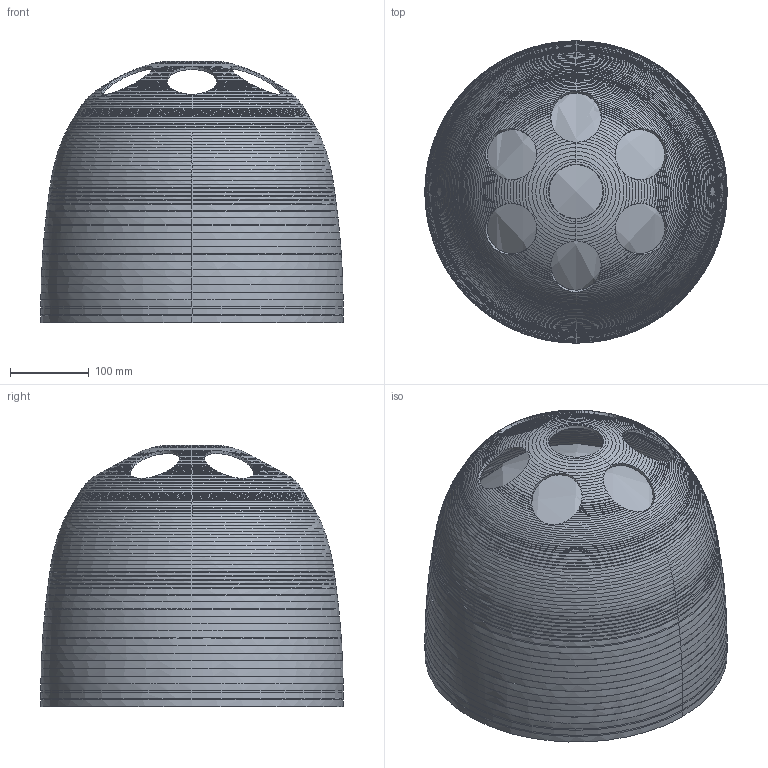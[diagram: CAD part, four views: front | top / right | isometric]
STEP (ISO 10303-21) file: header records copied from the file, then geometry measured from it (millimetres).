
FILE_DESCRIPTION(/* description */ (''),/* implementation_level */ '2;1');
FILE_NAME(/* name */ 'Dedalo',/* time_stamp */ '2025-07-07T17:56:37+02:00',/* author */ (''),/* organization */ (''),/* preprocessor_version */ 'ST-DEVELOPER v16.5',/* originating_system */ 'Rhino 7.37',/* authorisation */ '');
FILE_SCHEMA (('AUTOMOTIVE_DESIGN'));
Length unit declared in the file: millimetre
Products named in the file (1): Blocco 01
Bounding box: 383.71 x 383.71 x 332.23 mm (x, y, z)
Surface area: 1339984.4 mm2 (no closed solid volume)
Topology: 0 solids, 4 shells, 1125 faces, 2635 edges, 1458 vertices
Faces by surface type: bspline 1109, cylinder 12, plane 4
Entity records: 52405 total; most frequent: CARTESIAN_POINT 37978, ORIENTED_EDGE 5013, EDGE_CURVE 2517, B_SPLINE_CURVE_WITH_KNOTS 1642, VERTEX_POINT 1399, EDGE_LOOP 1152, ADVANCED_FACE 1124, FACE_OUTER_BOUND 1124
